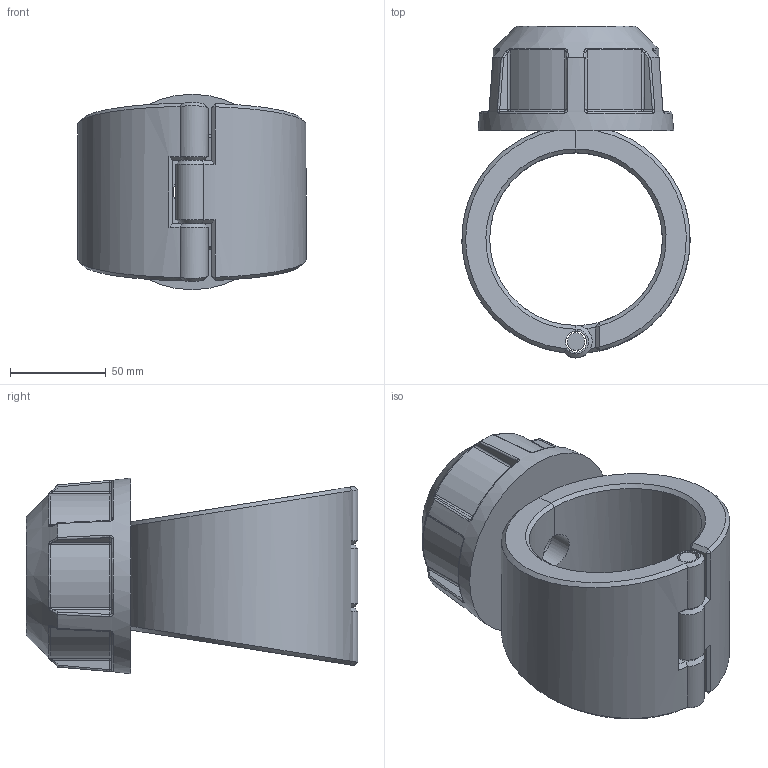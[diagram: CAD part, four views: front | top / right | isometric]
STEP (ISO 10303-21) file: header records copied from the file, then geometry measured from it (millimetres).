
FILE_DESCRIPTION(/* description */ ('Plassadle Threaded 90x1 1/4'''''),/* implementation_level */ '2;1');
FILE_NAME(/* name */ 'C:\Users\comp2\Dropbox\99-16-3568-Processing\Mechanical Fittings\16300\stp\163000090013.stp',/* time_stamp */ '2022-02-03T11:47:23+00:00',/* author */ ('comp2'),/* organization */ (''),/* preprocessor_version */ 'ST-DEVELOPER v17.2',/* originating_system */ 'Autodesk Inventor 2019',/* authorisation */ '');
FILE_SCHEMA (('AUTOMOTIVE_DESIGN { 1 0 10303 214 3 1 1 }'));
Length unit declared in the file: millimetre
Products named in the file (1): 163000090013
Bounding box: 118.98 x 173 x 102 mm (x, y, z)
Volume: 621829 mm3; surface area: 101040.5 mm2
Topology: 4 solids, 4 shells, 203 faces, 486 edges, 293 vertices
Faces by surface type: bspline 58, plane 53, cylinder 47, torus 18, cone 15, sphere 12
Full cylindrical faces by diameter (mm): 9.08 x1, 11.08 x3, 19.476 x1, 33.109 x1, 38.952 x1, 58.428 x1
Entity records: 8273 total; most frequent: CARTESIAN_POINT 3926, ORIENTED_EDGE 972, DIRECTION 781, EDGE_CURVE 486, AXIS2_PLACEMENT_3D 330, VERTEX_POINT 293, EDGE_LOOP 213, FACE_OUTER_BOUND 203
